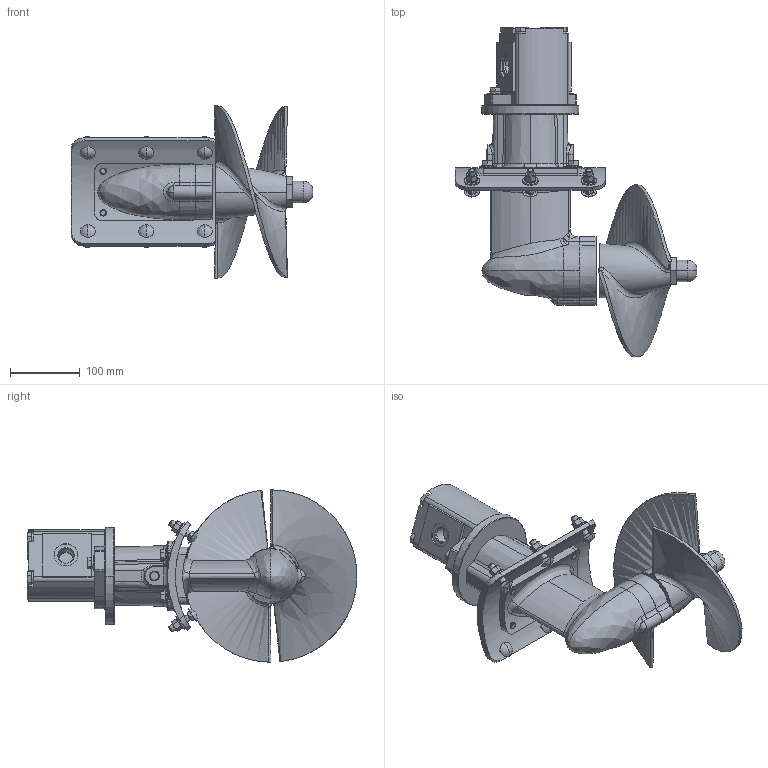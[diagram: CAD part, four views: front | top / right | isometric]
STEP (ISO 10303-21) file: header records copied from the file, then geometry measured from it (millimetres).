
FILE_DESCRIPTION (( 'STEP AP214' ), '1' );
FILE_NAME ('KP10X-H-TH_revA.STEP', '2020-09-25T19:25:13', ( '' ), ( '' ), 'SwSTEP 2.0', 'SolidWorks 2019', '' );
FILE_SCHEMA (( 'AUTOMOTIVE_DESIGN' ));
Length unit declared in the file: inch
Products named in the file (2): KP10X-H-TH_revA
Bounding box: 347.27 x 474.19 x 247.65 mm (x, y, z)
Volume: 3755640.8 mm3; surface area: 387991.9 mm2
Topology: 8 solids, 8 shells, 1091 faces, 2656 edges, 1597 vertices
Faces by surface type: plane 422, cylinder 268, cone 191, bspline 171, torus 33, sphere 6
Entity records: 74307 total; most frequent: CARTESIAN_POINT 50627, ORIENTED_EDGE 5248, DIRECTION 4543, EDGE_CURVE 2624, AXIS2_PLACEMENT_3D 1804, VERTEX_POINT 1597, EDGE_LOOP 1151, ADVANCED_FACE 1091
